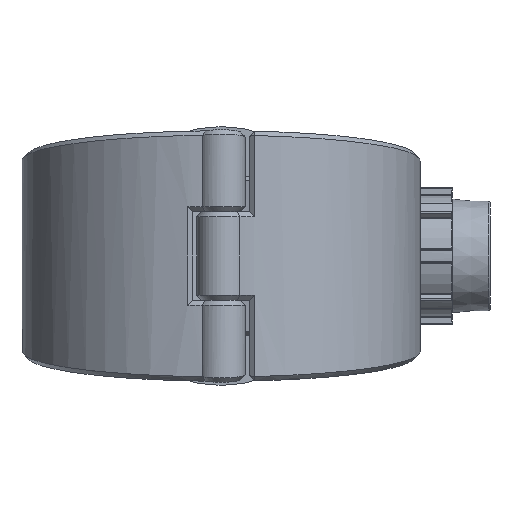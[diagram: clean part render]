
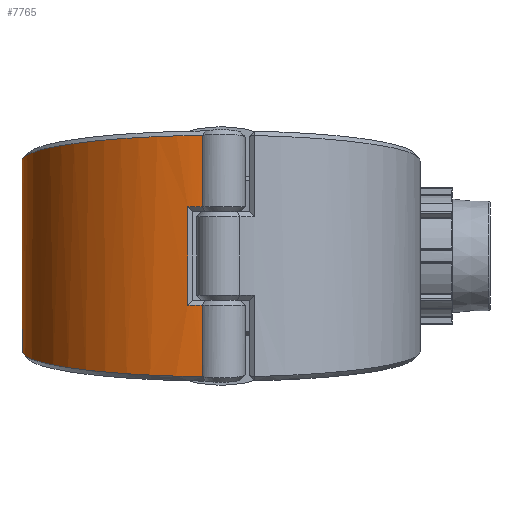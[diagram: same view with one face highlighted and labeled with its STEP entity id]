
A CAD part, front view. The second image highlights one B-rep face of the part: STEP entity #7765.
In plain terms, the highlighted cylindrical face has radius 78.5 mm (diameter 157 mm), a partial arc.
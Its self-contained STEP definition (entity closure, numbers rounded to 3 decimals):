
#263=CYLINDRICAL_SURFACE('',#8320,78.5);
#584=FACE_OUTER_BOUND('',#1104,.T.);
#1104=EDGE_LOOP('',(#5280,#5281,#5282,#5283,#5284,#5285,#5286,#5287,#5288,
#5289,#5290,#5291));
#1644=B_SPLINE_CURVE_WITH_KNOTS('',3,(#11843,#11844,#11845,#11846),
 .UNSPECIFIED.,.F.,.F.,(4,4),(-0.002,0.),.UNSPECIFIED.);
#1645=B_SPLINE_CURVE_WITH_KNOTS('',3,(#11848,#11849,#11850,#11851),
 .UNSPECIFIED.,.F.,.F.,(4,4),(-3.047,-3.047),
 .UNSPECIFIED.);
#1646=B_SPLINE_CURVE_WITH_KNOTS('',3,(#11853,#11854,#11855,#11856,#11857,
#11858,#11859,#11860,#11861,#11862),.UNSPECIFIED.,.F.,.F.,(4,1,1,1,1,1,
1,4),(0.317,0.631,1.035,1.44,
1.845,2.249,2.654,3.047),
 .UNSPECIFIED.);
#1647=B_SPLINE_CURVE_WITH_KNOTS('',3,(#11866,#11867,#11868,#11869,#11870,
#11871,#11872,#11873,#11874,#11875),.UNSPECIFIED.,.F.,.F.,(4,1,1,1,1,1,
1,4),(-3.047,-2.654,-2.249,-1.845,
-1.44,-1.035,-0.631,-0.317),
 .UNSPECIFIED.);
#1648=B_SPLINE_CURVE_WITH_KNOTS('',3,(#11877,#11878,#11879,#11880),
 .UNSPECIFIED.,.F.,.F.,(4,4),(3.047,3.047),
 .UNSPECIFIED.);
#1649=B_SPLINE_CURVE_WITH_KNOTS('',3,(#11882,#11883,#11884,#11885),
 .UNSPECIFIED.,.F.,.F.,(4,4),(-0.379,-0.377),
 .UNSPECIFIED.);
#1921=LINE('',#11777,#2291);
#1927=LINE('',#11841,#2297);
#1928=LINE('',#11864,#2298);
#1929=LINE('',#11886,#2299);
#2291=VECTOR('',#9336,10.);
#2297=VECTOR('',#9382,10.);
#2298=VECTOR('',#9383,10.);
#2299=VECTOR('',#9384,10.);
#2666=CIRCLE('',#8310,78.5);
#2669=CIRCLE('',#8315,78.5);
#3229=VERTEX_POINT('',#11771);
#3230=VERTEX_POINT('',#11776);
#3236=VERTEX_POINT('',#11797);
#3239=VERTEX_POINT('',#11818);
#3243=VERTEX_POINT('',#11840);
#3244=VERTEX_POINT('',#11842);
#3245=VERTEX_POINT('',#11847);
#3246=VERTEX_POINT('',#11852);
#3247=VERTEX_POINT('',#11863);
#3248=VERTEX_POINT('',#11865);
#3249=VERTEX_POINT('',#11876);
#3250=VERTEX_POINT('',#11881);
#3984=EDGE_CURVE('',#3229,#3230,#1921,.T.);
#3997=EDGE_CURVE('',#3236,#3229,#2666,.T.);
#4002=EDGE_CURVE('',#3230,#3239,#2669,.T.);
#4008=EDGE_CURVE('',#3243,#3236,#1927,.T.);
#4009=EDGE_CURVE('',#3244,#3243,#1644,.T.);
#4010=EDGE_CURVE('',#3244,#3245,#1645,.T.);
#4011=EDGE_CURVE('',#3246,#3245,#1646,.T.);
#4012=EDGE_CURVE('',#3247,#3246,#1928,.T.);
#4013=EDGE_CURVE('',#3248,#3247,#1647,.T.);
#4014=EDGE_CURVE('',#3248,#3249,#1648,.T.);
#4015=EDGE_CURVE('',#3250,#3249,#1649,.T.);
#4016=EDGE_CURVE('',#3239,#3250,#1929,.T.);
#5280=ORIENTED_EDGE('',*,*,#4002,.F.);
#5281=ORIENTED_EDGE('',*,*,#3984,.F.);
#5282=ORIENTED_EDGE('',*,*,#3997,.F.);
#5283=ORIENTED_EDGE('',*,*,#4008,.F.);
#5284=ORIENTED_EDGE('',*,*,#4009,.F.);
#5285=ORIENTED_EDGE('',*,*,#4010,.T.);
#5286=ORIENTED_EDGE('',*,*,#4011,.F.);
#5287=ORIENTED_EDGE('',*,*,#4012,.F.);
#5288=ORIENTED_EDGE('',*,*,#4013,.F.);
#5289=ORIENTED_EDGE('',*,*,#4014,.T.);
#5290=ORIENTED_EDGE('',*,*,#4015,.F.);
#5291=ORIENTED_EDGE('',*,*,#4016,.F.);
#7765=ADVANCED_FACE('',(#584),#263,.T.);
#8310=AXIS2_PLACEMENT_3D('',#11813,#9358,#9359);
#8315=AXIS2_PLACEMENT_3D('',#11827,#9368,#9369);
#8320=AXIS2_PLACEMENT_3D('',#11839,#9380,#9381);
#9336=DIRECTION('',(0.,0.,-1.));
#9358=DIRECTION('center_axis',(0.,0.,-1.));
#9359=DIRECTION('ref_axis',(0.312,-0.95,0.));
#9368=DIRECTION('center_axis',(0.,0.,1.));
#9369=DIRECTION('ref_axis',(0.312,-0.95,0.));
#9380=DIRECTION('center_axis',(0.,0.,1.));
#9381=DIRECTION('ref_axis',(-0.312,0.95,0.));
#9382=DIRECTION('',(0.,0.,-1.));
#9383=DIRECTION('',(0.,0.,1.));
#9384=DIRECTION('',(0.,0.,-1.));
#11771=CARTESIAN_POINT('',(-13.176,-77.386,19.5));
#11776=CARTESIAN_POINT('',(-13.176,-77.386,-19.5));
#11777=CARTESIAN_POINT('',(-13.176,-77.386,0.));
#11797=CARTESIAN_POINT('',(-7.389,-78.151,19.5));
#11813=CARTESIAN_POINT('Origin',(0.,0.,19.5));
#11818=CARTESIAN_POINT('',(-7.389,-78.151,-19.5));
#11827=CARTESIAN_POINT('Origin',(0.,0.,-19.5));
#11839=CARTESIAN_POINT('Origin',(0.,0.,0.));
#11840=CARTESIAN_POINT('',(-7.389,-78.151,47.543));
#11841=CARTESIAN_POINT('',(-7.389,-78.151,0.));
#11842=CARTESIAN_POINT('',(-7.376,-78.153,47.553));
#11843=CARTESIAN_POINT('Ctrl Pts',(-7.375,-78.152,
47.553));
#11844=CARTESIAN_POINT('Ctrl Pts',(-7.38,-78.152,
47.55));
#11845=CARTESIAN_POINT('Ctrl Pts',(-7.384,-78.151,
47.547));
#11846=CARTESIAN_POINT('Ctrl Pts',(-7.389,-78.151,
47.543));
#11847=CARTESIAN_POINT('',(-7.389,-78.151,47.553));
#11848=CARTESIAN_POINT('Ctrl Pts',(-7.376,-78.153,
47.553));
#11849=CARTESIAN_POINT('Ctrl Pts',(-7.38,-78.152,
47.553));
#11850=CARTESIAN_POINT('Ctrl Pts',(-7.385,-78.152,
47.553));
#11851=CARTESIAN_POINT('Ctrl Pts',(-7.389,-78.151,
47.553));
#11852=CARTESIAN_POINT('',(-24.512,74.575,27.998));
#11853=CARTESIAN_POINT('Ctrl Pts',(-24.511,74.572,27.999));
#11854=CARTESIAN_POINT('Ctrl Pts',(-32.338,71.995,28.328));
#11855=CARTESIAN_POINT('Ctrl Pts',(-49.327,63.276,29.441));
#11856=CARTESIAN_POINT('Ctrl Pts',(-69.509,40.976,32.289));
#11857=CARTESIAN_POINT('Ctrl Pts',(-80.018,10.258,36.217));
#11858=CARTESIAN_POINT('Ctrl Pts',(-77.598,-22.074,
40.358));
#11859=CARTESIAN_POINT('Ctrl Pts',(-62.656,-50.8,
44.042));
#11860=CARTESIAN_POINT('Ctrl Pts',(-37.911,-71.13,46.651));
#11861=CARTESIAN_POINT('Ctrl Pts',(-17.589,-77.186,
47.429));
#11862=CARTESIAN_POINT('Ctrl Pts',(-7.389,-78.151,
47.553));
#11863=CARTESIAN_POINT('',(-24.512,74.575,-27.998));
#11864=CARTESIAN_POINT('',(-24.512,74.575,0.));
#11865=CARTESIAN_POINT('',(-7.389,-78.151,-47.553));
#11866=CARTESIAN_POINT('Ctrl Pts',(-7.389,-78.151,
-47.553));
#11867=CARTESIAN_POINT('Ctrl Pts',(-17.589,-77.186,
-47.429));
#11868=CARTESIAN_POINT('Ctrl Pts',(-37.907,-71.126,
-46.651));
#11869=CARTESIAN_POINT('Ctrl Pts',(-62.663,-50.805,
-44.042));
#11870=CARTESIAN_POINT('Ctrl Pts',(-77.589,-22.071,
-40.358));
#11871=CARTESIAN_POINT('Ctrl Pts',(-80.027,10.259,-36.217));
#11872=CARTESIAN_POINT('Ctrl Pts',(-69.501,40.972,-32.29));
#11873=CARTESIAN_POINT('Ctrl Pts',(-49.331,63.279,-29.44));
#11874=CARTESIAN_POINT('Ctrl Pts',(-32.339,71.996,-28.328));
#11875=CARTESIAN_POINT('Ctrl Pts',(-24.511,74.573,-27.999));
#11876=CARTESIAN_POINT('',(-7.376,-78.153,-47.553));
#11877=CARTESIAN_POINT('Ctrl Pts',(-7.389,-78.151,
-47.553));
#11878=CARTESIAN_POINT('Ctrl Pts',(-7.385,-78.152,-47.553));
#11879=CARTESIAN_POINT('Ctrl Pts',(-7.38,-78.152,
-47.553));
#11880=CARTESIAN_POINT('Ctrl Pts',(-7.376,-78.153,
-47.553));
#11881=CARTESIAN_POINT('',(-7.389,-78.151,-47.543));
#11882=CARTESIAN_POINT('Ctrl Pts',(-7.389,-78.151,
-47.543));
#11883=CARTESIAN_POINT('Ctrl Pts',(-7.384,-78.151,
-47.547));
#11884=CARTESIAN_POINT('Ctrl Pts',(-7.38,-78.152,
-47.55));
#11885=CARTESIAN_POINT('Ctrl Pts',(-7.375,-78.152,
-47.553));
#11886=CARTESIAN_POINT('',(-7.389,-78.151,0.));
